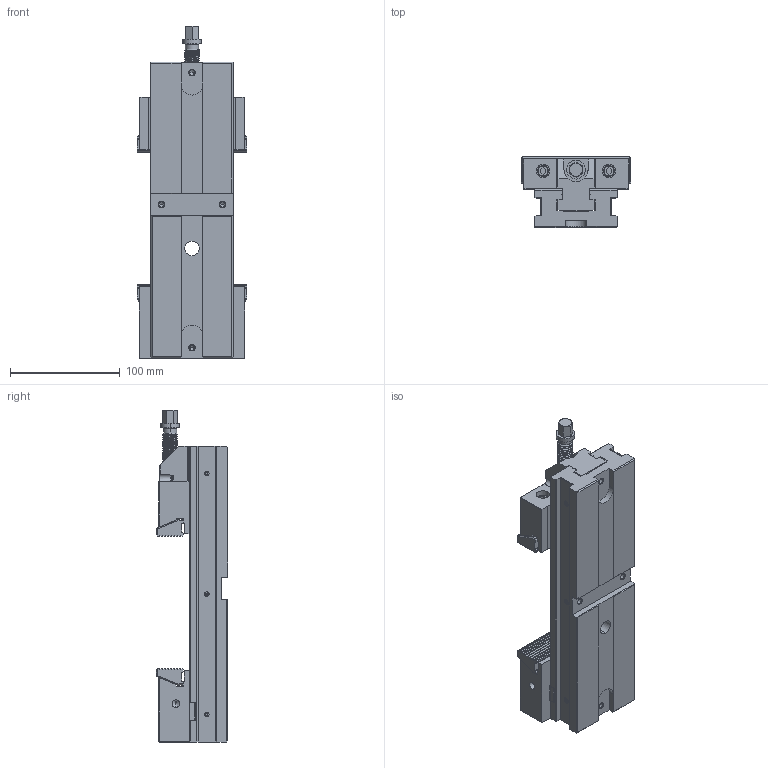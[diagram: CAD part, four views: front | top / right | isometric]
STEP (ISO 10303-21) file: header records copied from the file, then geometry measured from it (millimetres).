
FILE_DESCRIPTION((''),'2;1');
FILE_NAME('FG_VC_MODUL_MV100NP001_ASM','2026-02-26T16:16:12',('Admin'),(''),'CREO PARAMETRIC BY PTC INC, 2025010','CREO PARAMETRIC BY PTC INC, 2025010','');
FILE_SCHEMA(('CONFIG_CONTROL_DESIGN'));
Products named in the file (9): MODULAR-100-BODY; RIVET; PRT0006; MV-LP-100-100; PRT0013; FIX_JAW_MV100; MOVABLE_JAW_MV100; DIN912-M8X35-12_9; FG_VC_MODUL_MV100NP001_ASM
Assembly tree (17 placements, depth 2):
  FG_VC_MODUL_MV100NP001_ASM
    MODULAR-100-BODY
    RIVET  x4
    PRT0006  x4
    MV-LP-100-100
    PRT0013
    FIX_JAW_MV100
    MOVABLE_JAW_MV100
    DIN912-M8X35-12_9  x4
Bounding box: 100 x 65 x 302.99 mm (x, y, z)
Volume: 785925.3 mm3; surface area: 209326.8 mm2
Topology: 20 solids, 41 shells, 1761 faces, 4130 edges, 2407 vertices
Faces by surface type: bspline 716, plane 506, cylinder 331, cone 170, sphere 20, torus 18
Entity records: 81911 total; most frequent: CARTESIAN_POINT 50585, ORIENTED_EDGE 7260, DIRECTION 4729, EDGE_CURVE 3650, VERTEX_POINT 2179, EDGE_LOOP 1679, AXIS2_PLACEMENT_3D 1615, FACE_OUTER_BOUND 1572
